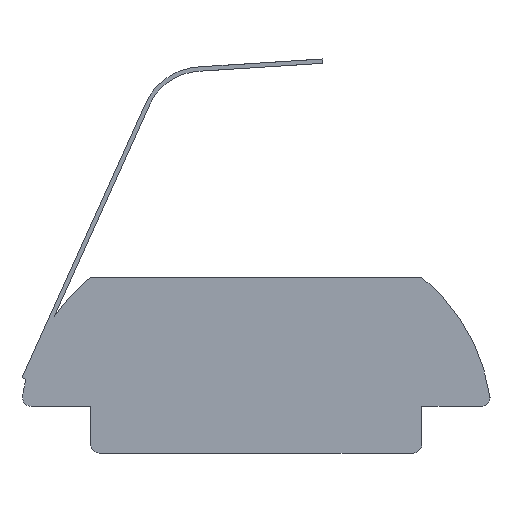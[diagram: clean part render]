
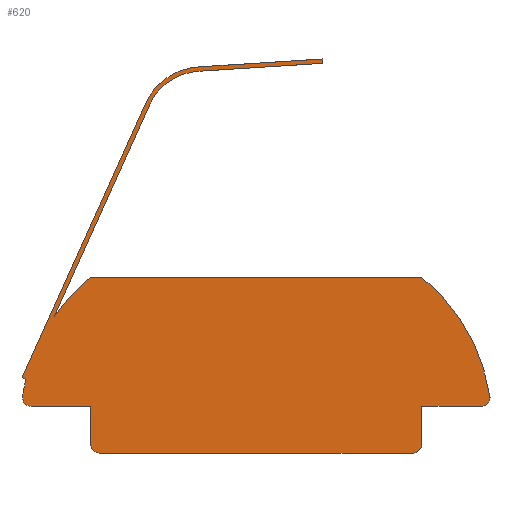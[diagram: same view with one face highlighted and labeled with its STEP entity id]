
A CAD part, left-side view. The second image highlights one B-rep face of the part: STEP entity #620.
In plain terms, the highlighted planar face has unit normal (-1, 0, 0).
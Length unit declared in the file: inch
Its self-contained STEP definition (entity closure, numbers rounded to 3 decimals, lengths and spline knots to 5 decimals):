
#78=CARTESIAN_POINT('',(-0.3937,0.05231,
-0.06907));
#79=DIRECTION('',(-1.,0.,0.));
#80=DIRECTION('',(0.,0.632,0.775));
#81=AXIS2_PLACEMENT_3D('',#78,#79,#80);
#83=DIRECTION('',(0.,1.,0.));
#84=VECTOR('',#83,0.3825);
#85=CARTESIAN_POINT('',(-0.3937,-0.19125,0.1015));
#86=LINE('',#85,#84);
#87=CARTESIAN_POINT('',(-0.3937,-0.05231,
-0.06907));
#88=DIRECTION('',(-1.,0.,0.));
#89=DIRECTION('',(0.,-0.989,0.15));
#90=AXIS2_PLACEMENT_3D('',#87,#88,#89);
#92=CARTESIAN_POINT('',(-0.3937,-0.25992,-0.0375));
#93=DIRECTION('',(-1.,0.,0.));
#94=DIRECTION('',(0.,0.,-1.));
#95=AXIS2_PLACEMENT_3D('',#92,#93,#94);
#97=DIRECTION('',(0.,-1.,0.));
#98=VECTOR('',#97,0.06867);
#99=CARTESIAN_POINT('',(-0.3937,-0.19125,-0.0475));
#100=LINE('',#99,#98);
#101=DIRECTION('',(0.,0.,1.));
#102=VECTOR('',#101,0.044);
#103=CARTESIAN_POINT('',(-0.3937,-0.19125,-0.0915));
#104=LINE('',#103,#102);
#105=CARTESIAN_POINT('',(-0.3937,-0.18125,-0.0915));
#106=DIRECTION('',(-1.,0.,0.));
#107=DIRECTION('',(0.,0.,-1.));
#108=AXIS2_PLACEMENT_3D('',#105,#106,#107);
#110=DIRECTION('',(0.,-1.,0.));
#111=VECTOR('',#110,0.3625);
#112=CARTESIAN_POINT('',(-0.3937,0.18125,-0.1015));
#113=LINE('',#112,#111);
#114=CARTESIAN_POINT('',(-0.3937,0.18125,-0.0915));
#115=DIRECTION('',(-1.,0.,0.));
#116=DIRECTION('',(0.,1.,0.));
#117=AXIS2_PLACEMENT_3D('',#114,#115,#116);
#119=DIRECTION('',(0.,0.,-1.));
#120=VECTOR('',#119,0.044);
#121=CARTESIAN_POINT('',(-0.3937,0.19125,-0.0475));
#122=LINE('',#121,#120);
#123=DIRECTION('',(0.,-1.,0.));
#124=VECTOR('',#123,0.06867);
#125=CARTESIAN_POINT('',(-0.3937,0.25992,-0.0475));
#126=LINE('',#125,#124);
#127=CARTESIAN_POINT('',(-0.3937,0.25992,-0.0375));
#128=DIRECTION('',(-1.,0.,0.));
#129=DIRECTION('',(0.,0.989,0.15));
#130=AXIS2_PLACEMENT_3D('',#127,#128,#129);
#132=CARTESIAN_POINT('',(-0.3937,0.05231,
-0.06907));
#133=DIRECTION('',(-1.,0.,0.));
#134=DIRECTION('',(0.,0.971,0.239));
#135=AXIS2_PLACEMENT_3D('',#132,#133,#134);
#137=DIRECTION('',(0.,-0.912,-0.411));
#138=VECTOR('',#137,0.005);
#139=CARTESIAN_POINT('',(-0.3937,0.2705,
-0.01445));
#140=LINE('',#139,#138);
#141=DIRECTION('',(0.,0.411,-0.912));
#142=VECTOR('',#141,0.35011);
#143=CARTESIAN_POINT('',(-0.3937,0.12677,
0.3048));
#144=LINE('',#143,#142);
#145=CARTESIAN_POINT('',(-0.3937,0.06243,
0.27248));
#146=DIRECTION('',(-1.,0.,0.));
#147=DIRECTION('',(0.,0.037,0.999));
#148=AXIS2_PLACEMENT_3D('',#145,#146,#147);
#150=DIRECTION('',(0.,0.998,-0.064));
#151=VECTOR('',#150,0.14193);
#152=CARTESIAN_POINT('',(-0.3937,-0.07655,
0.35349));
#153=LINE('',#152,#151);
#154=DIRECTION('',(0.,0.064,0.998));
#155=VECTOR('',#154,0.005);
#156=CARTESIAN_POINT('',(-0.3937,-0.07687,0.3485));
#157=LINE('',#156,#155);
#158=DIRECTION('',(0.,-0.998,0.064));
#159=VECTOR('',#158,0.142);
#160=CARTESIAN_POINT('',(-0.3937,0.06484,
0.33944));
#161=LINE('',#160,#159);
#162=CARTESIAN_POINT('',(-0.3937,0.06243,
0.27248));
#163=DIRECTION('',(1.,0.,0.));
#164=DIRECTION('',(0.,0.893,0.45));
#165=AXIS2_PLACEMENT_3D('',#162,#163,#164);
#167=DIRECTION('',(0.,-0.411,0.912));
#168=VECTOR('',#167,0.27049);
#169=CARTESIAN_POINT('',(-0.3937,0.2333,
0.056));
#170=LINE('',#169,#168);
#396=CARTESIAN_POINT('',(-0.3937,-0.19125,0.1015));
#398=VERTEX_POINT('',#396);
#404=CARTESIAN_POINT('',(-0.3937,-0.26981,
-0.036));
#406=VERTEX_POINT('',#404);
#411=CARTESIAN_POINT('',(-0.3937,-0.18125,-0.1015));
#413=VERTEX_POINT('',#411);
#416=CARTESIAN_POINT('',(-0.3937,0.12677,
0.3048));
#418=VERTEX_POINT('',#416);
#419=CARTESIAN_POINT('',(-0.3937,0.18125,-0.1015));
#420=VERTEX_POINT('',#419);
#425=CARTESIAN_POINT('',(-0.3937,0.2705,
-0.01445));
#426=CARTESIAN_POINT('',(-0.3937,0.26594,-0.0165));
#427=VERTEX_POINT('',#425);
#428=VERTEX_POINT('',#426);
#429=CARTESIAN_POINT('',(-0.3937,0.19125,0.1015));
#430=VERTEX_POINT('',#429);
#435=CARTESIAN_POINT('',(-0.3937,0.06509,
0.34444));
#437=VERTEX_POINT('',#435);
#439=CARTESIAN_POINT('',(-0.3937,0.06484,
0.33944));
#440=CARTESIAN_POINT('',(-0.3937,-0.07687,0.3485));
#441=VERTEX_POINT('',#439);
#442=VERTEX_POINT('',#440);
#447=CARTESIAN_POINT('',(-0.3937,0.12226,
0.30265));
#449=VERTEX_POINT('',#447);
#451=CARTESIAN_POINT('',(-0.3937,0.26981,
-0.036));
#453=VERTEX_POINT('',#451);
#459=CARTESIAN_POINT('',(-0.3937,0.25992,-0.0475));
#460=CARTESIAN_POINT('',(-0.3937,0.19125,-0.0475));
#461=VERTEX_POINT('',#459);
#462=VERTEX_POINT('',#460);
#463=CARTESIAN_POINT('',(-0.3937,0.2333,
0.056));
#464=VERTEX_POINT('',#463);
#465=CARTESIAN_POINT('',(-0.3937,-0.19125,-0.0475));
#466=VERTEX_POINT('',#465);
#467=CARTESIAN_POINT('',(-0.3937,-0.25992,-0.0475));
#468=VERTEX_POINT('',#467);
#475=CARTESIAN_POINT('',(-0.3937,-0.07655,
0.35349));
#476=VERTEX_POINT('',#475);
#477=CARTESIAN_POINT('',(-0.3937,-0.19125,-0.0915));
#478=VERTEX_POINT('',#477);
#485=CARTESIAN_POINT('',(-0.3937,0.19125,-0.0915));
#486=VERTEX_POINT('',#485);
#573=CARTESIAN_POINT('',(-0.3937,0.05231,
-0.06907));
#574=DIRECTION('',(-1.,0.,0.));
#575=DIRECTION('',(0.,0.,1.));
#576=AXIS2_PLACEMENT_3D('',#573,#574,#575);
#577=PLANE('',#576);
#579=ORIENTED_EDGE('',*,*,#578,.F.);
#581=ORIENTED_EDGE('',*,*,#580,.F.);
#583=ORIENTED_EDGE('',*,*,#582,.F.);
#585=ORIENTED_EDGE('',*,*,#584,.F.);
#587=ORIENTED_EDGE('',*,*,#586,.F.);
#589=ORIENTED_EDGE('',*,*,#588,.F.);
#591=ORIENTED_EDGE('',*,*,#590,.F.);
#593=ORIENTED_EDGE('',*,*,#592,.F.);
#595=ORIENTED_EDGE('',*,*,#594,.F.);
#597=ORIENTED_EDGE('',*,*,#596,.F.);
#599=ORIENTED_EDGE('',*,*,#598,.F.);
#601=ORIENTED_EDGE('',*,*,#600,.F.);
#602=ORIENTED_EDGE('',*,*,#551,.F.);
#603=ORIENTED_EDGE('',*,*,#564,.F.);
#605=ORIENTED_EDGE('',*,*,#604,.F.);
#607=ORIENTED_EDGE('',*,*,#606,.F.);
#609=ORIENTED_EDGE('',*,*,#608,.F.);
#611=ORIENTED_EDGE('',*,*,#610,.F.);
#613=ORIENTED_EDGE('',*,*,#612,.F.);
#615=ORIENTED_EDGE('',*,*,#614,.F.);
#617=ORIENTED_EDGE('',*,*,#616,.F.);
#618=EDGE_LOOP('',(#579,#581,#583,#585,#587,#589,#591,#593,#595,#597,#599,#601,
#602,#603,#605,#607,#609,#611,#613,#615,#617));
#619=FACE_OUTER_BOUND('',#618,.F.);
#82=CIRCLE('',#81,0.22);
#91=CIRCLE('',#90,0.22);
#96=CIRCLE('',#95,0.01);
#109=CIRCLE('',#108,0.01);
#118=CIRCLE('',#117,0.01);
#131=CIRCLE('',#130,0.01);
#136=CIRCLE('',#135,0.22);
#149=CIRCLE('',#148,0.072);
#166=CIRCLE('',#165,0.067);
#551=EDGE_CURVE('',#428,#453,#136,.T.);
#564=EDGE_CURVE('',#427,#428,#140,.T.);
#578=EDGE_CURVE('',#430,#464,#82,.T.);
#580=EDGE_CURVE('',#398,#430,#86,.T.);
#582=EDGE_CURVE('',#406,#398,#91,.T.);
#584=EDGE_CURVE('',#468,#406,#96,.T.);
#586=EDGE_CURVE('',#466,#468,#100,.T.);
#588=EDGE_CURVE('',#478,#466,#104,.T.);
#590=EDGE_CURVE('',#413,#478,#109,.T.);
#592=EDGE_CURVE('',#420,#413,#113,.T.);
#594=EDGE_CURVE('',#486,#420,#118,.T.);
#596=EDGE_CURVE('',#462,#486,#122,.T.);
#598=EDGE_CURVE('',#461,#462,#126,.T.);
#600=EDGE_CURVE('',#453,#461,#131,.T.);
#604=EDGE_CURVE('',#418,#427,#144,.T.);
#606=EDGE_CURVE('',#437,#418,#149,.T.);
#608=EDGE_CURVE('',#476,#437,#153,.T.);
#610=EDGE_CURVE('',#442,#476,#157,.T.);
#612=EDGE_CURVE('',#441,#442,#161,.T.);
#614=EDGE_CURVE('',#449,#441,#166,.T.);
#616=EDGE_CURVE('',#464,#449,#170,.T.);
#620=ADVANCED_FACE('',(#619),#577,.T.);
